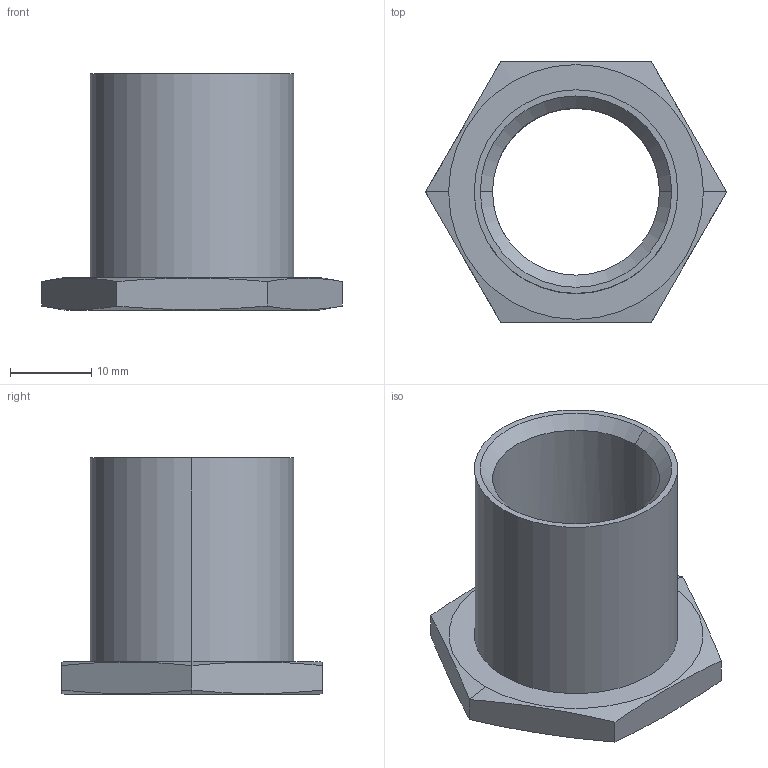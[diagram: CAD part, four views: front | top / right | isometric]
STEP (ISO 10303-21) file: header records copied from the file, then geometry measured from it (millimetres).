
FILE_DESCRIPTION (( 'STEP AP214' ), '1' );
FILE_NAME ('2.TD.004.STEP', '2024-07-11T15:04:44', ( '' ), ( '' ), 'SwSTEP 2.0', 'SolidWorks 2021', '' );
FILE_SCHEMA (( 'AUTOMOTIVE_DESIGN' ));
Length unit declared in the file: millimetre
Products named in the file (1): 2.TD.004
Bounding box: 36.95 x 32 x 29 mm (x, y, z)
Volume: 5910.5 mm3; surface area: 5513.1 mm2
Topology: 1 solids, 1 shells, 32 faces, 91 edges, 62 vertices
Faces by surface type: cylinder 11, plane 10, cone 8, bspline 3
Entity records: 2003 total; most frequent: CARTESIAN_POINT 1145, ORIENTED_EDGE 182, DIRECTION 116, EDGE_CURVE 91, VERTEX_POINT 62, AXIS2_PLACEMENT_3D 45, EDGE_LOOP 35, FACE_OUTER_BOUND 32
